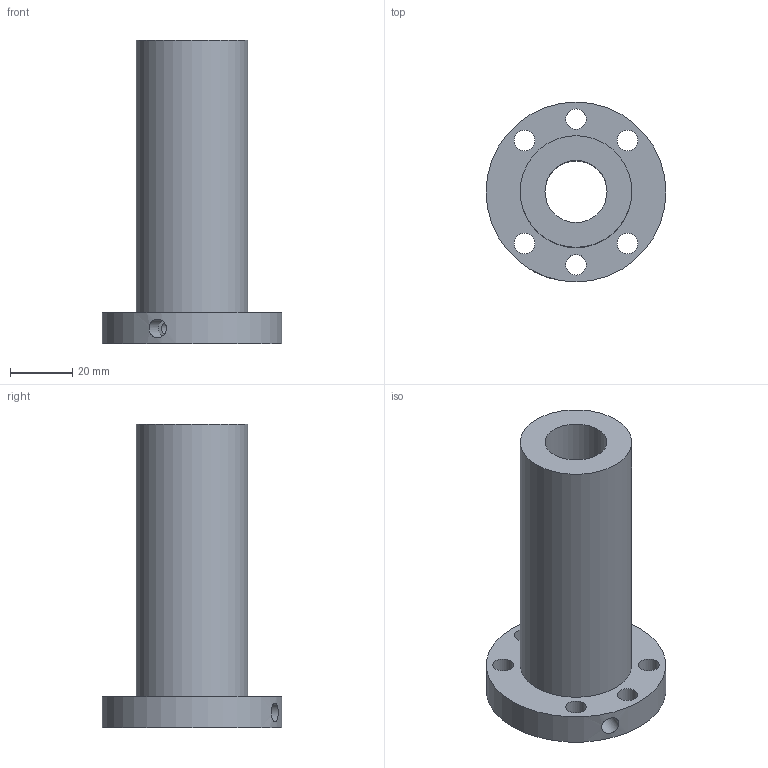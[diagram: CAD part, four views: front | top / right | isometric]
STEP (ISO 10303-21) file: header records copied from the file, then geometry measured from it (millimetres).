
FILE_DESCRIPTION(/* description */ (''),/* implementation_level */ '2;1');
FILE_NAME(/* name */ '20-10K3_3175',/* time_stamp */ '2007-10-15T12:54:02+08:00',/* author */ (''),/* organization */ (''),/* preprocessor_version */ 'ST-DEVELOPER v11',/* originating_system */ 'UGS - NX 5.0',/* authorisation */ '');
FILE_SCHEMA (('CONFIG_CONTROL_DESIGN'));
Length unit declared in the file: millimetre
Products named in the file (1): 20-10K3_3175
Bounding box: 58 x 58 x 98 mm (x, y, z)
Volume: 82789.7 mm3; surface area: 23685.2 mm2
Topology: 1 solids, 1 shells, 15 faces, 34 edges, 23 vertices
Faces by surface type: cylinder 11, plane 4
Full cylindrical faces by diameter (mm): 4 x1, 6 x1, 6.6 x6, 20 x1, 36 x1, 58 x1
Entity records: 600 total; most frequent: CARTESIAN_POINT 174, DIRECTION 72, FACE_BOUND 44, EDGE_LOOP 44, ORIENTED_EDGE 44, AXIS2_PLACEMENT_3D 36, VERTEX_POINT 22, EDGE_CURVE 22
